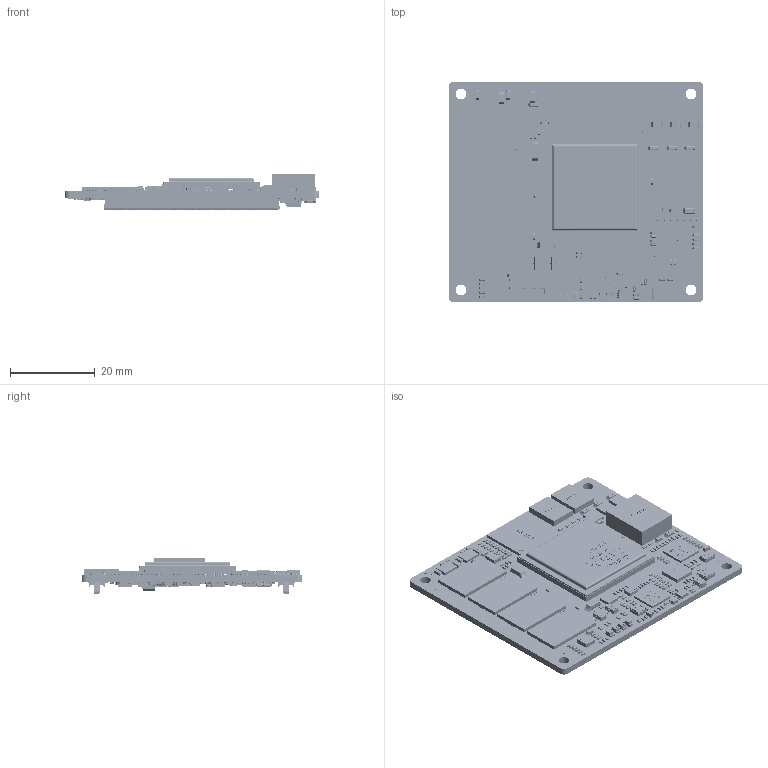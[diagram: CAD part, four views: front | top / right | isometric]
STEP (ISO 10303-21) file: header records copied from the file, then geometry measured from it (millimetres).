
FILE_DESCRIPTION((''),'2;1');
FILE_NAME('MYC-CZU3EG-V2_V10-1129_ASM','2023-03-02T11:02:19',('89233'),(''),'CREO PARAMETRIC BY PTC INC, 2022164','CREO PARAMETRIC BY PTC INC, 2022164','');
FILE_SCHEMA(('AUTOMOTIVE_DESIGN { 1 0 10303 214 1 1 1 1 }'));
Products named in the file (199): BOARD; R0603-12916; R0603-238602_ASM; PIN1-22569; PIN2-22570; PIN3-22571; PIN4-22572; PIN5-22573; PIN6-22574; CHIP-22575; SOT23-6-12917_ASM; SOT23-6-238604_ASM; NONE-22576; NONE-22577; NONE-22578; NONE-22579; NONE-22580; NONE-22581; NONE-22582; NONE-22583; NONE-22584; NONE-22585; NONE-22586; NONE-22587; NONE-22588; NONE-22589; NONE-22590; NONE-22591; NONE-22592; NONE-22593; NONE-22594; NONE-22595; NONE-22596; NONE-22597; NONE-22598; NONE-22599; NONE-22600; NONE-22601; NONE-22602; NONE-22603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
Assembly tree (676 placements, depth 7):
  MYC-CZU3EG-V2_V10-1129_ASM
    MYC-CZU3EG-V2_V10-1129_1_ASM
      BOARD
      COMPONENTS_ASM
        R0603-238602_ASM  x2
          R0603-12916
        SOT23-6-238604_ASM
          SOT23-6-12917_ASM
            PIN1-22569
            PIN2-22570
            PIN3-22571
            PIN4-22572
            PIN5-22573
            PIN6-22574
            CHIP-22575
        QFN59-238605_ASM
          QFN59-12918_ASM
            NONE-22576
            NONE-22577
            NONE-22578
            NONE-22579
            NONE-22580
            NONE-22581
            NONE-22582
            NONE-22583
            NONE-22584
            NONE-22585
            NONE-22586
            NONE-22587
            NONE-22588
            NONE-22589
            NONE-22590
            NONE-22591
            NONE-22592
            NONE-22593
            NONE-22594
            NONE-22595
            NONE-22596
            NONE-22597
            NONE-22598
            NONE-22599
            NONE-22600
            NONE-22601
            NONE-22602
            NONE-22603
            NONE-22604
            NONE-22605
            NONE-22606
            NONE-22607
            NONE-22608
            NONE-22609
            NONE-22610
            NONE-22611
            NONE-22612
            NONE-22613
            NONE-22614
            NONE-22615
            NONE-22616
            NONE-22617
            NONE-22618
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Bounding box: 60 x 52 x 8.48 mm (x, y, z)
Volume: 8535.5 mm3; surface area: 17913.7 mm2
Topology: 1445 solids, 1450 shells, 51449 faces, 169496 edges, 132665 vertices
Faces by surface type: plane 36295, cylinder 8821, bspline 2535, sphere 2268, torus 900, extrusion 614, cone 16
Entity records: 681959 total; most frequent: CARTESIAN_POINT 101076, DIRECTION 89560, ORIENTED_EDGE 62144, PRESENTATION_STYLE_ASSIGNMENT 47598, STYLED_ITEM 47531, CURVE_STYLE 42365, VECTOR 36231, LINE 36019
